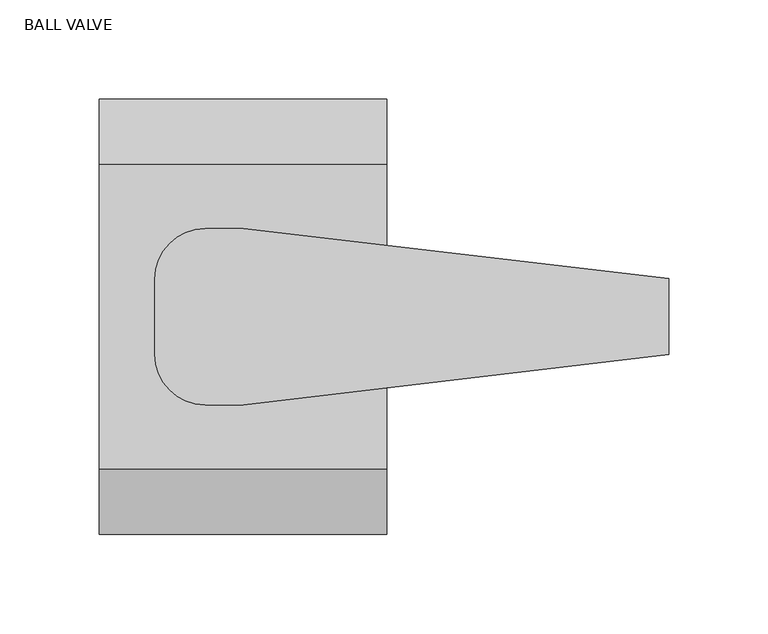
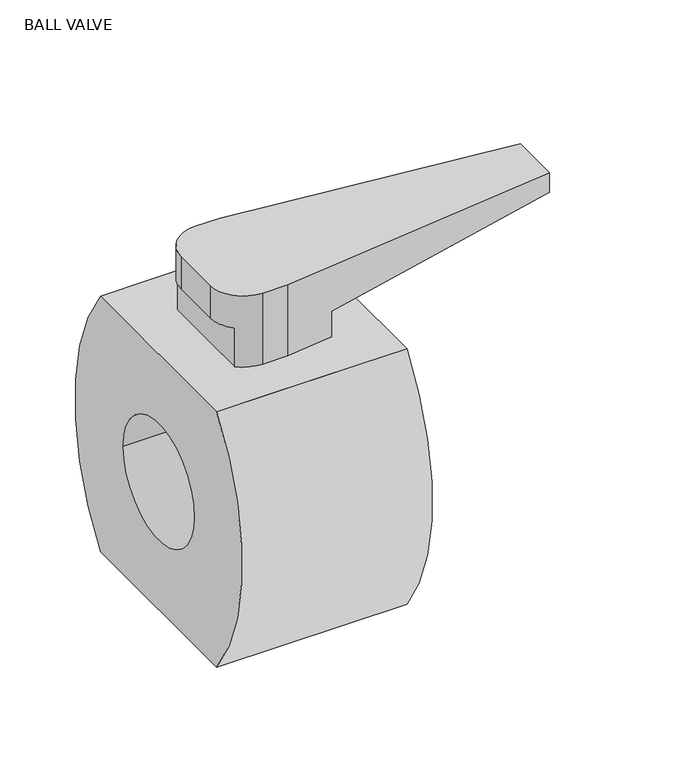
"""IFC4 building model written with IfcOpenShell, lengths in millimetres: valve geometry, Aquatherm - Ball Valve : BALL VALVE."""

from ifc_helpers import new_model, si_unit, frame, origin, place, context, project, spatial, polyline, circle_curve, source, transform, mapped, element, save
from ifc_brep_helpers import plane_surface, cylinder_surface, revolved_surface, advanced_brep


def ball_valve_59f87e8e(model_context):
    return source(origin(), model_context, "Body", "AdvancedBrep", [
        advanced_brep(
        [(0.0, 44.45, 160.274), (-19.06016, 44.45, 160.274), (-44.46016, 19.05, 160.274), (-44.46016, -19.05, 160.274), (-19.06016, -44.45, 160.274), (0.0, -44.45, 160.274), (214.61984, -19.1539441, 160.274), (214.61984, 19.1539441, 160.274), (0.0, -44.45, 103.124), (-19.06016, -44.45, 103.124), (-36.2585, -37.7416319, 103.124), (-36.2585, 37.7416319, 103.124), (-19.06016, 44.45, 103.124), (0.0, 44.45, 103.124), (36.2585, 40.1764107, 103.124), (36.2585, -40.1764107, 103.124), (-36.2585, 37.7416319, 134.112), (-44.46016, 19.05, 134.112), (-44.46016, -19.05, 134.112), (-36.2585, -37.7416319, 134.112), (36.2585, -40.1764107, 123.7826667), (214.61984, -19.1539441, 144.4413333), (214.61984, 19.1539441, 144.4413333), (36.2585, 40.1764107, 123.7826667)],
        [
            (0, 1),
            (1, 2, circle_curve(frame((-19.06016, 19.05, 160.274), z_axis=(0.0, 0.0, 1.0), x_axis=(0.0, 1.0, 0.0)), 25.4)),
            (2, 3),
            (3, 4, circle_curve(frame((-19.06016, -19.05, 160.274), z_axis=(0.0, 0.0, 1.0), x_axis=(0.0, 1.0, 0.0)), 25.4)),
            (4, 5),
            (5, 6),
            (6, 7),
            (7, 0),
            (8, 9),
            (9, 10, circle_curve(frame((-19.06016, -19.05, 103.124), z_axis=(0.0, 0.0, -1.0), x_axis=(0.0, 1.0, 0.0)), 25.4)),
            (10, 11),
            (11, 12, circle_curve(frame((-19.06016, 19.05, 103.124), z_axis=(0.0, 0.0, -1.0), x_axis=(0.0, 1.0, 0.0)), 25.4)),
            (12, 13),
            (13, 14),
            (14, 15),
            (15, 8),
            (0, 13),
            (12, 1),
            (11, 16),
            (16, 17, circle_curve(frame((-19.06016, 19.05, 134.112), z_axis=(0.0, 0.0, 1.0), x_axis=(0.0, 1.0, 0.0)), 25.4)),
            (17, 2),
            (17, 18),
            (18, 3),
            (18, 19, circle_curve(frame((-19.06016, -19.05, 134.112), z_axis=(0.0, 0.0, 1.0), x_axis=(0.0, 1.0, 0.0)), 25.4)),
            (19, 10),
            (9, 4),
            (8, 5),
            (15, 20),
            (20, 21),
            (21, 6),
            (21, 22),
            (22, 7),
            (22, 23),
            (23, 14),
            (19, 16),
            (20, 23),
        ],
        [
            plane_surface(frame((-19.06016, 44.45, 160.274), z_axis=(0.0, 0.0, 1.0), x_axis=(-1.0, 0.0, 0.0))),
            plane_surface(frame((-19.06016, 44.45, 103.124), z_axis=(0.0, 0.0, -1.0), x_axis=(1.0, 0.0, 0.0))),
            plane_surface(frame((0.0, 44.45, 160.274), z_axis=(0.0, 1.0, 0.0), x_axis=(0.0, 0.0, -1.0))),
            cylinder_surface(frame((-19.06016, 19.05, 103.124), z_axis=(0.0, 0.0, 1.0), x_axis=(0.0, 1.0, 0.0)), 25.4),
            plane_surface(frame((-44.46016, 19.05, 160.274), z_axis=(-1.0, 0.0, 0.0), x_axis=(0.0, 0.0, -1.0))),
            cylinder_surface(frame((-19.06016, -19.05, 103.124), z_axis=(0.0, 0.0, 1.0), x_axis=(0.0, 1.0, 0.0)), 25.4),
            plane_surface(frame((-19.06016, -44.45, 160.274), z_axis=(0.0, -1.0, 0.0), x_axis=(0.0, 0.0, -1.0))),
            plane_surface(frame((0.0, -44.45, 160.274), z_axis=(0.11705422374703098, -0.9931255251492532, 0.0), x_axis=(0.0, 0.0, -1.0))),
            plane_surface(frame((214.61984, -19.1539441, 160.274), z_axis=(1.0, 0.0, 0.0), x_axis=(0.0, 0.0, -1.0))),
            plane_surface(frame((214.61984, 19.1539441, 160.274), z_axis=(0.11705422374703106, 0.9931255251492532, 0.0), x_axis=(0.0, 0.0, -1.0))),
            plane_surface(frame((-36.2585, -304.8, 103.124), z_axis=(-1.0, 0.0, 0.0), x_axis=(0.0, 1.0, 0.0))),
            plane_surface(frame((-36.2585, -304.8, 134.112), z_axis=(0.0, 0.0, -1.0), x_axis=(0.0, 1.0, 0.0))),
            plane_surface(frame((214.61984, -304.8, 144.4413333), z_axis=(0.11505561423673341, 0.0, -0.9933590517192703), x_axis=(0.0, 1.0, 0.0))),
            plane_surface(frame((36.2585, -304.8, 123.7826667), z_axis=(1.0, 0.0, 0.0), x_axis=(0.0, 1.0, 0.0))),
        ],
        [
            (0, [[1, 2, 3, 4, 5, 6, 7, 8]]),
            (1, [[9, 10, 11, 12, 13, 14, 15, 16]]),
            (2, [[-1, 17, -13, 18]]),
            (3, [[-2, -18, -12, 19, 20, 21]]),
            (4, [[-3, -21, 22, 23]]),
            (5, [[-4, -23, 24, 25, -10, 26]]),
            (6, [[-5, -26, -9, 27]]),
            (7, [[-6, -27, -16, 28, 29, 30]]),
            (8, [[-7, -30, 31, 32]]),
            (9, [[-8, -32, 33, 34, -14, -17]]),
            (10, [[35, -19, -11, -25]]),
            (11, [[-35, -24, -22, -20]]),
            (12, [[36, -33, -31, -29]]),
            (13, [[-36, -28, -15, -34]]),
        ],
    ),
        advanced_brep(
        [(72.517, -76.7577367, 103.124), (72.517, -76.7577367, -103.124), (72.517, 76.7577367, -103.124), (72.517, 76.7577367, 103.124), (72.517, -46.99, 0.0), (72.517, 46.99, 0.0), (-72.517, -76.7577367, 103.124), (-72.517, 76.7577367, 103.124), (-72.517, 76.7577367, -103.124), (-72.517, -76.7577367, -103.124), (-72.517, -46.99, 0.0), (-72.517, 46.99, 0.0), (36.2585, 76.7577367, 103.124), (-36.2585, 76.7577367, 103.124), (-36.2585, -76.7577367, 103.124), (36.2585, -76.7577367, 103.124)],
        [
            (0, 1, circle_curve(frame((72.517, 64.008, 0.0), z_axis=(1.0, 0.0, 0.0), x_axis=(0.0, 1.0, 0.0)), 174.498)),
            (1, 2),
            (2, 3, circle_curve(frame((72.517, -64.008, 0.0), z_axis=(1.0, 0.0, 0.0), x_axis=(0.0, 1.0, 0.0)), 174.498)),
            (3, 0),
            (4, 5, circle_curve(frame((72.517, 0.0, 0.0), z_axis=(-1.0, 0.0, 0.0), x_axis=(0.0, 1.0, 0.0)), 46.99)),
            (5, 4, circle_curve(frame((72.517, 0.0, 0.0), z_axis=(-1.0, 0.0, 0.0), x_axis=(0.0, 1.0, 0.0)), 46.99)),
            (6, 7),
            (7, 8, circle_curve(frame((-72.517, -64.008, 0.0), z_axis=(-1.0, 0.0, 0.0), x_axis=(0.0, 1.0, 0.0)), 174.498)),
            (8, 9),
            (9, 6, circle_curve(frame((-72.517, 64.008, 0.0), z_axis=(-1.0, 0.0, 0.0), x_axis=(0.0, 1.0, 0.0)), 174.498)),
            (10, 11, circle_curve(frame((-72.517, 0.0, 0.0), z_axis=(1.0, 0.0, 0.0), x_axis=(0.0, 1.0, 0.0)), 46.99)),
            (11, 10, circle_curve(frame((-72.517, 0.0, 0.0), z_axis=(1.0, 0.0, 0.0), x_axis=(0.0, 1.0, 0.0)), 46.99)),
            (1, 9),
            (8, 2),
            (3, 12),
            (12, 13),
            (13, 7),
            (6, 14),
            (14, 15),
            (15, 0),
            (4, 10),
            (11, 5),
        ],
        [
            plane_surface(frame((72.517, 238.506, 0.0), z_axis=(1.0, 0.0, 0.0), x_axis=(0.0, 0.0, 1.0))),
            plane_surface(frame((-72.517, 238.506, 0.0), z_axis=(-1.0, 0.0, 0.0), x_axis=(0.0, 0.0, -1.0))),
            plane_surface(frame((72.517, -76.7577367, -103.124), z_axis=(0.0, 0.0, -1.0), x_axis=(-1.0, 0.0, 0.0))),
            plane_surface(frame((72.517, 76.7577367, 103.124), z_axis=(0.0, 0.0, 1.0), x_axis=(-1.0, 0.0, 0.0))),
            revolved_surface(polyline([(-72.517, 46.99, 0.0), (72.517, 46.99, 0.0)]), (0.0, 0.0, 0.0), (-1.0, 0.0, 0.0)),
            cylinder_surface(frame((-72.517, 64.008, 0.0), z_axis=(1.0, 0.0, 0.0), x_axis=(0.0, 1.0, 0.0)), 174.498),
            cylinder_surface(frame((-72.517, -64.008, 0.0), z_axis=(1.0, 0.0, 0.0), x_axis=(0.0, 1.0, 0.0)), 174.498),
        ],
        [
            (0, [[1, 2, 3, 4], [5, 6]]),
            (1, [[7, 8, 9, 10], [11, 12]]),
            (2, [[-2, 13, -9, 14]]),
            (3, [[-4, 15, 16, 17, -7, 18, 19, 20]]),
            (4, [[-5, 21, -12, 22]]),
            (4, [[-6, -22, -11, -21]]),
            (5, [[-1, -20, -19, -18, -10, -13]]),
            (6, [[-3, -14, -8, -17, -16, -15]]),
        ],
    ),
    ])


if __name__ == "__main__":
    model = new_model("IFC4")
    model_context = context("Model", 3, world=origin())
    ifc_project = project(units=[si_unit("LENGTHUNIT", "METRE", prefix="MILLI")], contexts=[model_context])
    site = spatial("IfcSite", under=ifc_project)
    building = spatial("IfcBuilding", under=site)
    placement = place(None, origin())
    ball_valve_shape = ball_valve_59f87e8e(model_context)
    element("IfcValve", 1, ObjectType="Aquatherm - Ball Valve : BALL VALVE", at=placement, inside=building, context=model_context, shape_type="MappedRepresentation", body=[
        mapped(ball_valve_shape, transform((0.0, 0.0, 0.0), x_axis=(1.0, 0.0, 0.0), y_axis=(0.0, 1.0, 0.0), z_axis=(0.0, 0.0, 1.0))),
    ])
    save(model, "model.ifc")
